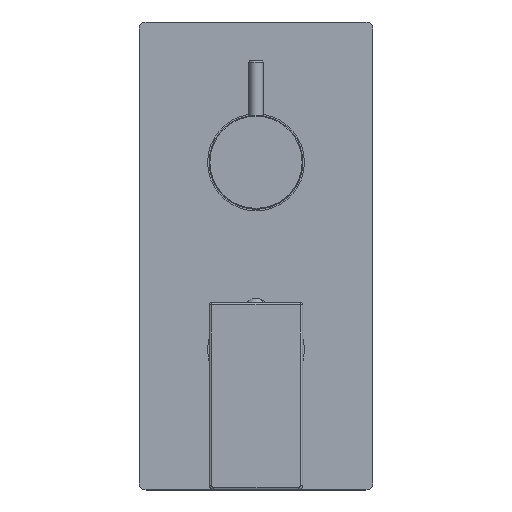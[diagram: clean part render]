
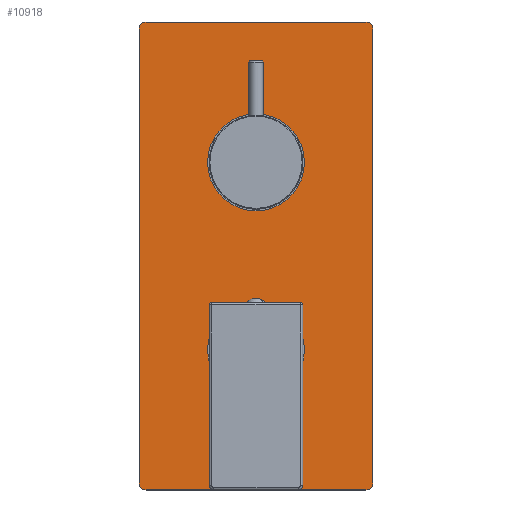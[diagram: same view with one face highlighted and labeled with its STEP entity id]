
A CAD part, top view. The second image highlights one B-rep face of the part: STEP entity #10918.
In plain terms, the highlighted planar face has unit normal (0, 0, 1).
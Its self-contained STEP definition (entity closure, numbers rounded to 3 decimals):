
#53 = DIRECTION ( 'NONE',  ( 0., 0., 1. ) ) ;
#340 = DIRECTION ( 'NONE',  ( 1., 0., 0. ) ) ;
#619 = AXIS2_PLACEMENT_3D ( 'NONE', #15070, #2430, #340 ) ;
#1270 = DIRECTION ( 'NONE',  ( 0., 0., 1. ) ) ;
#1679 = EDGE_CURVE ( 'NONE', #22373, #23740, #15949, .T. ) ;
#1802 = CIRCLE ( 'NONE', #17924, 20.7 ) ;
#2412 = CIRCLE ( 'NONE', #13618, 3. ) ;
#2430 = DIRECTION ( 'NONE',  ( 0., 0., 1. ) ) ;
#2538 = AXIS2_PLACEMENT_3D ( 'NONE', #17564, #26516, #2818 ) ;
#2818 = DIRECTION ( 'NONE',  ( 1., 0., 0. ) ) ;
#2938 = DIRECTION ( 'NONE',  ( 1., 0., 0. ) ) ;
#3021 = CIRCLE ( 'NONE', #6188, 3. ) ;
#3161 = CARTESIAN_POINT ( 'NONE',  ( 100., -50., 2. ) ) ;
#3202 = VERTEX_POINT ( 'NONE', #9081 ) ;
#3230 = CIRCLE ( 'NONE', #619, 3. ) ;
#3354 = DIRECTION ( 'NONE',  ( 1., 0., 0. ) ) ;
#3995 = CARTESIAN_POINT ( 'NONE',  ( -40., 0., 2. ) ) ;
#4082 = EDGE_CURVE ( 'NONE', #23740, #19932, #3230, .T. ) ;
#4213 = EDGE_CURVE ( 'NONE', #22279, #19060, #2412, .T. ) ;
#4522 = LINE ( 'NONE', #13077, #21690 ) ;
#4536 = CARTESIAN_POINT ( 'NONE',  ( 100., 47., 2. ) ) ;
#4547 = DIRECTION ( 'NONE',  ( 1., 0., 0. ) ) ;
#4713 = CARTESIAN_POINT ( 'NONE',  ( 60.7, 0., 2. ) ) ;
#4949 = DIRECTION ( 'NONE',  ( 0., 0., 1. ) ) ;
#5080 = FACE_BOUND ( 'NONE', #27135, .T. ) ;
#5783 = AXIS2_PLACEMENT_3D ( 'NONE', #12940, #23606, #19528 ) ;
#5979 = EDGE_CURVE ( 'NONE', #19060, #6309, #4522, .T. ) ;
#6188 = AXIS2_PLACEMENT_3D ( 'NONE', #13064, #21907, #2938 ) ;
#6201 = AXIS2_PLACEMENT_3D ( 'NONE', #16338, #7386, #10056 ) ;
#6309 = VERTEX_POINT ( 'NONE', #16288 ) ;
#6432 = LINE ( 'NONE', #17361, #17018 ) ;
#6861 = DIRECTION ( 'NONE',  ( 1., 0., 0. ) ) ;
#7036 = CIRCLE ( 'NONE', #2538, 3. ) ;
#7055 = CARTESIAN_POINT ( 'NONE',  ( -60.7, 0., 2. ) ) ;
#7085 = EDGE_LOOP ( 'NONE', ( #15612, #17043 ) ) ;
#7386 = DIRECTION ( 'NONE',  ( 0., 0., 1. ) ) ;
#7543 = CIRCLE ( 'NONE', #6201, 20.7 ) ;
#8641 = CARTESIAN_POINT ( 'NONE',  ( 100., -47., 2. ) ) ;
#9081 = CARTESIAN_POINT ( 'NONE',  ( 19.3, 0., 2. ) ) ;
#9585 = DIRECTION ( 'NONE',  ( 1., 0., 0. ) ) ;
#9619 = EDGE_CURVE ( 'NONE', #17219, #11827, #7036, .T. ) ;
#10056 = DIRECTION ( 'NONE',  ( 1., 0., 0. ) ) ;
#10918 = ADVANCED_FACE ( 'NONE', ( #11400, #13776, #5080 ), #24159, .T. ) ;
#11400 = FACE_BOUND ( 'NONE', #7085, .T. ) ;
#11827 = VERTEX_POINT ( 'NONE', #14260 ) ;
#12404 = EDGE_CURVE ( 'NONE', #3202, #19594, #7543, .T. ) ;
#12570 = DIRECTION ( 'NONE',  ( 0., 0., 1. ) ) ;
#12940 = CARTESIAN_POINT ( 'NONE',  ( -40., 0., 2. ) ) ;
#13064 = CARTESIAN_POINT ( 'NONE',  ( -97., -47., 2. ) ) ;
#13077 = CARTESIAN_POINT ( 'NONE',  ( -100., -50., 2. ) ) ;
#13569 = EDGE_LOOP ( 'NONE', ( #25717, #24841, #13707, #22020, #17374, #18992, #14750, #25691 ) ) ;
#13618 = AXIS2_PLACEMENT_3D ( 'NONE', #25449, #53, #4547 ) ;
#13707 = ORIENTED_EDGE ( 'NONE', *, *, #5979, .T. ) ;
#13776 = FACE_OUTER_BOUND ( 'NONE', #13569, .T. ) ;
#14260 = CARTESIAN_POINT ( 'NONE',  ( 97., 50., 2. ) ) ;
#14380 = VERTEX_POINT ( 'NONE', #25137 ) ;
#14410 = VECTOR ( 'NONE', #6861, 1000. ) ;
#14712 = EDGE_CURVE ( 'NONE', #19594, #3202, #1802, .T. ) ;
#14750 = ORIENTED_EDGE ( 'NONE', *, *, #26242, .T. ) ;
#15070 = CARTESIAN_POINT ( 'NONE',  ( 97., -47., 2. ) ) ;
#15612 = ORIENTED_EDGE ( 'NONE', *, *, #21287, .F. ) ;
#15949 = LINE ( 'NONE', #3161, #14410 ) ;
#16288 = CARTESIAN_POINT ( 'NONE',  ( -100., -47., 2. ) ) ;
#16338 = CARTESIAN_POINT ( 'NONE',  ( 40., 0., 2. ) ) ;
#17018 = VECTOR ( 'NONE', #19321, 1000. ) ;
#17043 = ORIENTED_EDGE ( 'NONE', *, *, #26303, .F. ) ;
#17219 = VERTEX_POINT ( 'NONE', #4536 ) ;
#17361 = CARTESIAN_POINT ( 'NONE',  ( 100., 50., 2. ) ) ;
#17374 = ORIENTED_EDGE ( 'NONE', *, *, #1679, .T. ) ;
#17564 = CARTESIAN_POINT ( 'NONE',  ( 97., 47., 2. ) ) ;
#17683 = CARTESIAN_POINT ( 'NONE',  ( -100., 47., 2. ) ) ;
#17924 = AXIS2_PLACEMENT_3D ( 'NONE', #24555, #1270, #3354 ) ;
#18456 = CARTESIAN_POINT ( 'NONE',  ( -97., 50., 2. ) ) ;
#18598 = CARTESIAN_POINT ( 'NONE',  ( -97., -50., 2. ) ) ;
#18756 = CIRCLE ( 'NONE', #5783, 20.7 ) ;
#18992 = ORIENTED_EDGE ( 'NONE', *, *, #4082, .T. ) ;
#19001 = CARTESIAN_POINT ( 'NONE',  ( 100., -50., 2. ) ) ;
#19060 = VERTEX_POINT ( 'NONE', #17683 ) ;
#19154 = LINE ( 'NONE', #19001, #27689 ) ;
#19199 = AXIS2_PLACEMENT_3D ( 'NONE', #3995, #12570, #27567 ) ;
#19321 = DIRECTION ( 'NONE',  ( -1., 0., 0. ) ) ;
#19528 = DIRECTION ( 'NONE',  ( 1., 0., 0. ) ) ;
#19594 = VERTEX_POINT ( 'NONE', #4713 ) ;
#19621 = CIRCLE ( 'NONE', #19199, 20.7 ) ;
#19932 = VERTEX_POINT ( 'NONE', #8641 ) ;
#20593 = EDGE_CURVE ( 'NONE', #6309, #22373, #3021, .T. ) ;
#20902 = AXIS2_PLACEMENT_3D ( 'NONE', #26248, #4949, #9585 ) ;
#21182 = ORIENTED_EDGE ( 'NONE', *, *, #12404, .F. ) ;
#21287 = EDGE_CURVE ( 'NONE', #25623, #14380, #18756, .T. ) ;
#21639 = DIRECTION ( 'NONE',  ( 0., -1., 0. ) ) ;
#21690 = VECTOR ( 'NONE', #21639, 1000. ) ;
#21907 = DIRECTION ( 'NONE',  ( 0., 0., 1. ) ) ;
#22020 = ORIENTED_EDGE ( 'NONE', *, *, #20593, .T. ) ;
#22279 = VERTEX_POINT ( 'NONE', #18456 ) ;
#22373 = VERTEX_POINT ( 'NONE', #18598 ) ;
#23490 = DIRECTION ( 'NONE',  ( 0., 1., 0. ) ) ;
#23606 = DIRECTION ( 'NONE',  ( 0., 0., 1. ) ) ;
#23740 = VERTEX_POINT ( 'NONE', #25602 ) ;
#24159 = PLANE ( 'NONE',  #20902 ) ;
#24555 = CARTESIAN_POINT ( 'NONE',  ( 40., 0., 2. ) ) ;
#24841 = ORIENTED_EDGE ( 'NONE', *, *, #4213, .T. ) ;
#25137 = CARTESIAN_POINT ( 'NONE',  ( -19.3, 0., 2. ) ) ;
#25449 = CARTESIAN_POINT ( 'NONE',  ( -97., 47., 2. ) ) ;
#25602 = CARTESIAN_POINT ( 'NONE',  ( 97., -50., 2. ) ) ;
#25623 = VERTEX_POINT ( 'NONE', #7055 ) ;
#25691 = ORIENTED_EDGE ( 'NONE', *, *, #9619, .T. ) ;
#25717 = ORIENTED_EDGE ( 'NONE', *, *, #27559, .T. ) ;
#26242 = EDGE_CURVE ( 'NONE', #19932, #17219, #19154, .T. ) ;
#26248 = CARTESIAN_POINT ( 'NONE',  ( 0., 0., 2. ) ) ;
#26303 = EDGE_CURVE ( 'NONE', #14380, #25623, #19621, .T. ) ;
#26516 = DIRECTION ( 'NONE',  ( 0., 0., 1. ) ) ;
#26664 = ORIENTED_EDGE ( 'NONE', *, *, #14712, .F. ) ;
#27135 = EDGE_LOOP ( 'NONE', ( #21182, #26664 ) ) ;
#27559 = EDGE_CURVE ( 'NONE', #11827, #22279, #6432, .T. ) ;
#27567 = DIRECTION ( 'NONE',  ( 1., 0., 0. ) ) ;
#27689 = VECTOR ( 'NONE', #23490, 1000. ) ;
